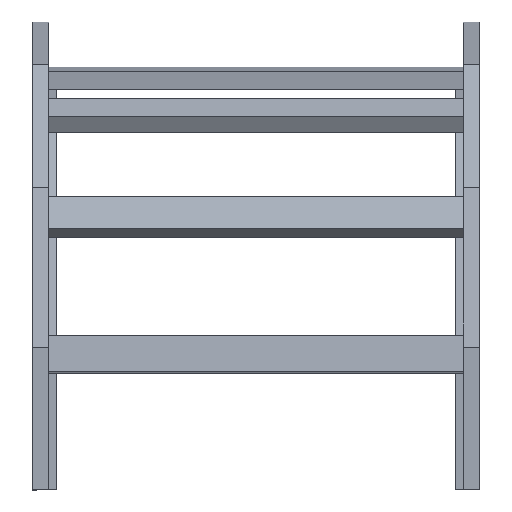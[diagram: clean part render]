
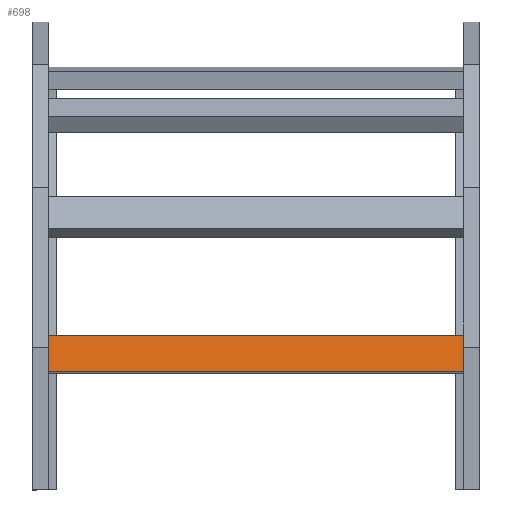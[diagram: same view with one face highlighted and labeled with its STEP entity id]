
A CAD part, top view. The second image highlights one B-rep face of the part: STEP entity #698.
In plain terms, the highlighted planar face has unit normal (0, 0.131, 0.991) as drawn and (0, 1, 0) by its records, which use the part's own axes.
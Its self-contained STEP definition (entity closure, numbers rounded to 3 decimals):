
#163 = CARTESIAN_POINT ( 'NONE',  ( -248., 20., 20.25 ) ) ;
#193 = CARTESIAN_POINT ( 'NONE',  ( 248., 20., 20.25 ) ) ;
#239 = VECTOR ( 'NONE', #1214, 1000. ) ;
#280 = LINE ( 'NONE', #873, #390 ) ;
#329 = LINE ( 'NONE', #193, #1183 ) ;
#390 = VECTOR ( 'NONE', #574, 1000. ) ;
#469 = CARTESIAN_POINT ( 'NONE',  ( -248., 20., -20.25 ) ) ;
#531 = CARTESIAN_POINT ( 'NONE',  ( -248., 20., 20.25 ) ) ;
#574 = DIRECTION ( 'NONE',  ( -1., 0., 0. ) ) ;
#615 = LINE ( 'NONE', #782, #239 ) ;
#639 = ORIENTED_EDGE ( 'NONE', *, *, #818, .T. ) ;
#681 = FACE_OUTER_BOUND ( 'NONE', #1246, .T. ) ;
#698 = ADVANCED_FACE ( 'NONE', ( #681 ), #1292, .F. ) ;
#782 = CARTESIAN_POINT ( 'NONE',  ( 248., 20., 20.25 ) ) ;
#818 = EDGE_CURVE ( 'NONE', #1175, #1310, #280, .T. ) ;
#873 = CARTESIAN_POINT ( 'NONE',  ( 248., 20., -20.25 ) ) ;
#902 = DIRECTION ( 'NONE',  ( 0., 0., 1. ) ) ;
#966 = EDGE_CURVE ( 'NONE', #1820, #1526, #615, .T. ) ;
#994 = DIRECTION ( 'NONE',  ( 0., -1., 0. ) ) ;
#1088 = ORIENTED_EDGE ( 'NONE', *, *, #1331, .F. ) ;
#1126 = VECTOR ( 'NONE', #1222, 1000. ) ;
#1175 = VERTEX_POINT ( 'NONE', #1590 ) ;
#1183 = VECTOR ( 'NONE', #902, 1000. ) ;
#1214 = DIRECTION ( 'NONE',  ( -1., 0., 0. ) ) ;
#1222 = DIRECTION ( 'NONE',  ( 0., 0., 1. ) ) ;
#1246 = EDGE_LOOP ( 'NONE', ( #1828, #1572, #1088, #639 ) ) ;
#1292 = PLANE ( 'NONE',  #1404 ) ;
#1310 = VERTEX_POINT ( 'NONE', #469 ) ;
#1331 = EDGE_CURVE ( 'NONE', #1175, #1820, #329, .T. ) ;
#1367 = EDGE_CURVE ( 'NONE', #1310, #1526, #1779, .T. ) ;
#1404 = AXIS2_PLACEMENT_3D ( 'NONE', #1570, #994, #1540 ) ;
#1526 = VERTEX_POINT ( 'NONE', #531 ) ;
#1540 = DIRECTION ( 'NONE',  ( 0., 0., -1. ) ) ;
#1570 = CARTESIAN_POINT ( 'NONE',  ( 248., 20., 20.25 ) ) ;
#1572 = ORIENTED_EDGE ( 'NONE', *, *, #966, .F. ) ;
#1590 = CARTESIAN_POINT ( 'NONE',  ( 248., 20., -20.25 ) ) ;
#1767 = CARTESIAN_POINT ( 'NONE',  ( 248., 20., 20.25 ) ) ;
#1779 = LINE ( 'NONE', #163, #1126 ) ;
#1820 = VERTEX_POINT ( 'NONE', #1767 ) ;
#1828 = ORIENTED_EDGE ( 'NONE', *, *, #1367, .T. ) ;
